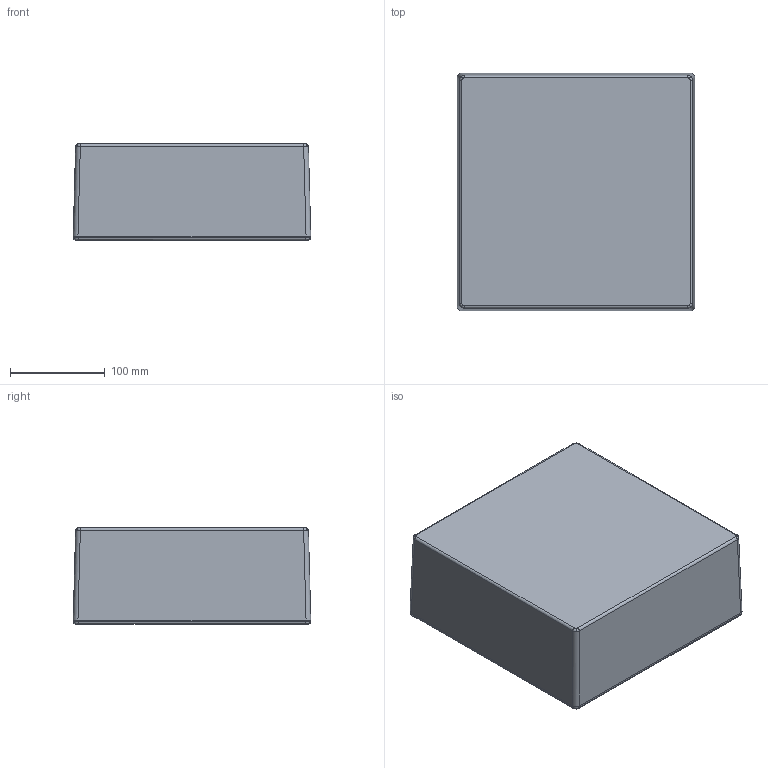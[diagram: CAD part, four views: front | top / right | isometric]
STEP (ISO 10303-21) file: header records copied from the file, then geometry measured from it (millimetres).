
FILE_DESCRIPTION(/* description */ (''),/* implementation_level */ '2;1');
FILE_NAME(/* name */ 'E:\Eng\Customer Service\Drawings\new 1550\STEP\1550N\1550N.iam.stp',/* time_stamp */ '2014-10-29T10:14:17-04:00',/* author */ ('tcook'),/* organization */ (''),/* preprocessor_version */ 'ST-DEVELOPER v15.2',/* originating_system */ 'Autodesk Inventor 2014',/* authorisation */ '');
FILE_SCHEMA (('AUTOMOTIVE_DESIGN { 1 0 10303 214 3 1 1 }'));
Products named in the file (4): 1550N BOX; 1550N LID; SC1550 (screw M3.5-0.6X 12mm FH); 1550N
Bounding box: 250.2 x 250.2 x 101.3 mm (x, y, z)
Volume: 581996.7 mm3; surface area: 443986.2 mm2
Topology: 10 solids, 10 shells, 1233 faces, 3260 edges, 2108 vertices
Faces by surface type: plane 476, bspline 431, cone 147, cylinder 104, torus 75
Full cylindrical faces by diameter (mm): 3 x8, 3.43 x8, 4 x8
Entity records: 49782 total; most frequent: CARTESIAN_POINT 26394, ORIENTED_EDGE 5446, DIRECTION 3793, EDGE_CURVE 2723, VERTEX_POINT 1779, AXIS2_PLACEMENT_3D 1303, LINE 1187, VECTOR 1187
